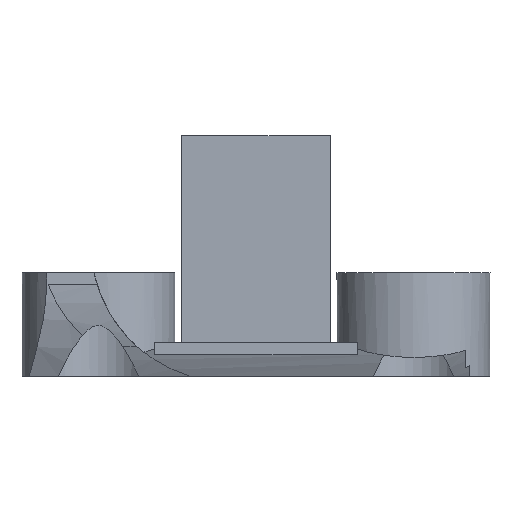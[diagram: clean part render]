
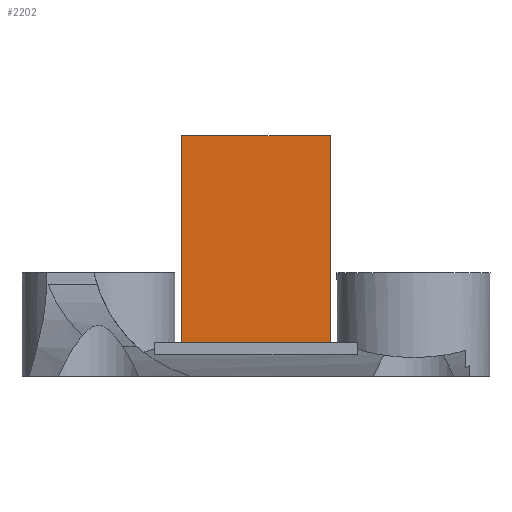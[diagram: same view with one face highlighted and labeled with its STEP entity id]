
A CAD part, left-side view. The second image highlights one B-rep face of the part: STEP entity #2202.
In plain terms, the highlighted planar face has unit normal (-1, 0, 0).
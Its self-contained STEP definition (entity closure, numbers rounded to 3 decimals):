
#72 = PLANE('',#73);
#73 = AXIS2_PLACEMENT_3D('',#74,#75,#76);
#74 = CARTESIAN_POINT('',(-38.05,27.5,-16.6));
#75 = DIRECTION('',(0.,0.,1.));
#76 = DIRECTION('',(1.,0.,-0.));
#750 = VERTEX_POINT('',#751);
#751 = CARTESIAN_POINT('',(-33.55,28.7,-16.6));
#765 = PLANE('',#766);
#766 = AXIS2_PLACEMENT_3D('',#767,#768,#769);
#767 = CARTESIAN_POINT('',(-33.55,28.7,-16.6));
#768 = DIRECTION('',(-0.,1.,0.));
#769 = DIRECTION('',(0.,0.,1.));
#777 = EDGE_CURVE('',#750,#778,#780,.T.);
#778 = VERTEX_POINT('',#779);
#779 = CARTESIAN_POINT('',(-33.55,35.3,-16.6));
#780 = SURFACE_CURVE('',#781,(#785,#792),.PCURVE_S1.);
#781 = LINE('',#782,#783);
#782 = CARTESIAN_POINT('',(-33.55,28.1,-16.6));
#783 = VECTOR('',#784,1.);
#784 = DIRECTION('',(-0.,1.,0.));
#785 = PCURVE('',#72,#786);
#786 = DEFINITIONAL_REPRESENTATION('',(#787),#791);
#787 = LINE('',#788,#789);
#788 = CARTESIAN_POINT('',(4.5,0.6));
#789 = VECTOR('',#790,1.);
#790 = DIRECTION('',(0.,1.));
#791 = ( GEOMETRIC_REPRESENTATION_CONTEXT(2) 
PARAMETRIC_REPRESENTATION_CONTEXT() REPRESENTATION_CONTEXT('2D SPACE',''
  ) );
#792 = PCURVE('',#793,#798);
#793 = PLANE('',#794);
#794 = AXIS2_PLACEMENT_3D('',#795,#796,#797);
#795 = CARTESIAN_POINT('',(-33.55,28.7,-16.6));
#796 = DIRECTION('',(1.,0.,-0.));
#797 = DIRECTION('',(0.,0.,1.));
#798 = DEFINITIONAL_REPRESENTATION('',(#799),#803);
#799 = LINE('',#800,#801);
#800 = CARTESIAN_POINT('',(0.,0.6));
#801 = VECTOR('',#802,1.);
#802 = DIRECTION('',(0.,-1.));
#803 = ( GEOMETRIC_REPRESENTATION_CONTEXT(2) 
PARAMETRIC_REPRESENTATION_CONTEXT() REPRESENTATION_CONTEXT('2D SPACE',''
  ) );
#821 = PLANE('',#822);
#822 = AXIS2_PLACEMENT_3D('',#823,#824,#825);
#823 = CARTESIAN_POINT('',(-33.55,35.3,-16.6));
#824 = DIRECTION('',(-0.,1.,0.));
#825 = DIRECTION('',(0.,0.,1.));
#2121 = PLANE('',#2122);
#2122 = AXIS2_PLACEMENT_3D('',#2123,#2124,#2125);
#2123 = CARTESIAN_POINT('',(-33.55,28.7,-7.4));
#2124 = DIRECTION('',(0.,0.,1.));
#2125 = DIRECTION('',(1.,0.,-0.));
#2159 = EDGE_CURVE('',#778,#2160,#2162,.T.);
#2160 = VERTEX_POINT('',#2161);
#2161 = CARTESIAN_POINT('',(-33.55,35.3,-7.4));
#2162 = SURFACE_CURVE('',#2163,(#2167,#2174),.PCURVE_S1.);
#2163 = LINE('',#2164,#2165);
#2164 = CARTESIAN_POINT('',(-33.55,35.3,-16.6));
#2165 = VECTOR('',#2166,1.);
#2166 = DIRECTION('',(0.,0.,1.));
#2167 = PCURVE('',#821,#2168);
#2168 = DEFINITIONAL_REPRESENTATION('',(#2169),#2173);
#2169 = LINE('',#2170,#2171);
#2170 = CARTESIAN_POINT('',(0.,0.));
#2171 = VECTOR('',#2172,1.);
#2172 = DIRECTION('',(1.,0.));
#2173 = ( GEOMETRIC_REPRESENTATION_CONTEXT(2) 
PARAMETRIC_REPRESENTATION_CONTEXT() REPRESENTATION_CONTEXT('2D SPACE',''
  ) );
#2174 = PCURVE('',#793,#2175);
#2175 = DEFINITIONAL_REPRESENTATION('',(#2176),#2180);
#2176 = LINE('',#2177,#2178);
#2177 = CARTESIAN_POINT('',(0.,-6.6));
#2178 = VECTOR('',#2179,1.);
#2179 = DIRECTION('',(1.,0.));
#2180 = ( GEOMETRIC_REPRESENTATION_CONTEXT(2) 
PARAMETRIC_REPRESENTATION_CONTEXT() REPRESENTATION_CONTEXT('2D SPACE',''
  ) );
#2202 = ADVANCED_FACE('',(#2203),#793,.F.);
#2203 = FACE_BOUND('',#2204,.F.);
#2204 = EDGE_LOOP('',(#2205,#2228,#2229,#2230));
#2205 = ORIENTED_EDGE('',*,*,#2206,.F.);
#2206 = EDGE_CURVE('',#750,#2207,#2209,.T.);
#2207 = VERTEX_POINT('',#2208);
#2208 = CARTESIAN_POINT('',(-33.55,28.7,-7.4));
#2209 = SURFACE_CURVE('',#2210,(#2214,#2221),.PCURVE_S1.);
#2210 = LINE('',#2211,#2212);
#2211 = CARTESIAN_POINT('',(-33.55,28.7,-16.6));
#2212 = VECTOR('',#2213,1.);
#2213 = DIRECTION('',(0.,0.,1.));
#2214 = PCURVE('',#793,#2215);
#2215 = DEFINITIONAL_REPRESENTATION('',(#2216),#2220);
#2216 = LINE('',#2217,#2218);
#2217 = CARTESIAN_POINT('',(0.,0.));
#2218 = VECTOR('',#2219,1.);
#2219 = DIRECTION('',(1.,0.));
#2220 = ( GEOMETRIC_REPRESENTATION_CONTEXT(2) 
PARAMETRIC_REPRESENTATION_CONTEXT() REPRESENTATION_CONTEXT('2D SPACE',''
  ) );
#2221 = PCURVE('',#765,#2222);
#2222 = DEFINITIONAL_REPRESENTATION('',(#2223),#2227);
#2223 = LINE('',#2224,#2225);
#2224 = CARTESIAN_POINT('',(0.,0.));
#2225 = VECTOR('',#2226,1.);
#2226 = DIRECTION('',(1.,0.));
#2227 = ( GEOMETRIC_REPRESENTATION_CONTEXT(2) 
PARAMETRIC_REPRESENTATION_CONTEXT() REPRESENTATION_CONTEXT('2D SPACE',''
  ) );
#2228 = ORIENTED_EDGE('',*,*,#777,.T.);
#2229 = ORIENTED_EDGE('',*,*,#2159,.T.);
#2230 = ORIENTED_EDGE('',*,*,#2231,.F.);
#2231 = EDGE_CURVE('',#2207,#2160,#2232,.T.);
#2232 = SURFACE_CURVE('',#2233,(#2237,#2244),.PCURVE_S1.);
#2233 = LINE('',#2234,#2235);
#2234 = CARTESIAN_POINT('',(-33.55,28.7,-7.4));
#2235 = VECTOR('',#2236,1.);
#2236 = DIRECTION('',(-0.,1.,0.));
#2237 = PCURVE('',#793,#2238);
#2238 = DEFINITIONAL_REPRESENTATION('',(#2239),#2243);
#2239 = LINE('',#2240,#2241);
#2240 = CARTESIAN_POINT('',(9.2,0.));
#2241 = VECTOR('',#2242,1.);
#2242 = DIRECTION('',(0.,-1.));
#2243 = ( GEOMETRIC_REPRESENTATION_CONTEXT(2) 
PARAMETRIC_REPRESENTATION_CONTEXT() REPRESENTATION_CONTEXT('2D SPACE',''
  ) );
#2244 = PCURVE('',#2121,#2245);
#2245 = DEFINITIONAL_REPRESENTATION('',(#2246),#2250);
#2246 = LINE('',#2247,#2248);
#2247 = CARTESIAN_POINT('',(0.,0.));
#2248 = VECTOR('',#2249,1.);
#2249 = DIRECTION('',(0.,1.));
#2250 = ( GEOMETRIC_REPRESENTATION_CONTEXT(2) 
PARAMETRIC_REPRESENTATION_CONTEXT() REPRESENTATION_CONTEXT('2D SPACE',''
  ) );
